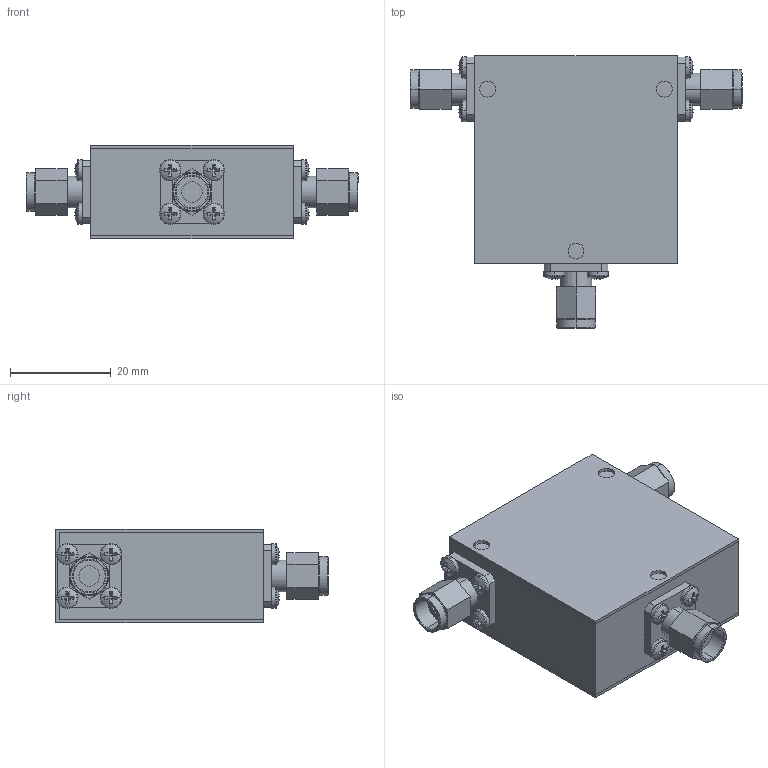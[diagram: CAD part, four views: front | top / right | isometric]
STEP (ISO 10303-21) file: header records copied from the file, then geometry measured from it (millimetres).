
FILE_DESCRIPTION (( 'STEP AP214' ), '1' );
FILE_NAME ('Package 7 Circ MMM.step', '2021-12-01T21:01:43', ( '' ), ( '' ), 'SwSTEP 2.0', 'SolidWorks 2016', '' );
FILE_SCHEMA (( 'AUTOMOTIVE_DESIGN' ));
Length unit declared in the file: inch
Products named in the file (5): Delta SMA-Male; Package 7 Circ MMM; Package Size 7; pan cross head_ai_CR-PHMS 0.086-56x0.125x0.125-N; Package 7
Assembly tree (17 placements, depth 2):
  Package 7 Circ MMM
    Package Size 7
    Package 7
    pan cross head_ai_CR-PHMS 0.086-56x0.125x0.125-N  x12
    Delta SMA-Male  x3
Bounding box: 65.89 x 54.03 x 18.54 mm (x, y, z)
Volume: 32480.2 mm3; surface area: 17646 mm2
Topology: 17 solids, 17 shells, 445 faces, 1014 edges, 624 vertices
Faces by surface type: plane 259, cylinder 120, torus 42, sphere 24
Entity records: 3248 total; most frequent: DIRECTION 584, CARTESIAN_POINT 504, ORIENTED_EDGE 472, EDGE_CURVE 236, AXIS2_PLACEMENT_3D 230, VERTEX_POINT 150, LINE 124, EDGE_LOOP 124
